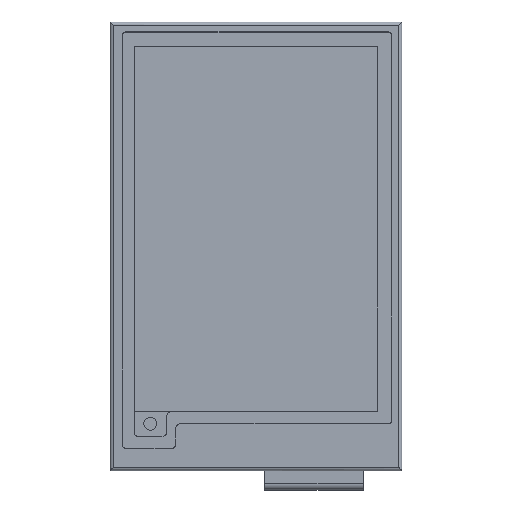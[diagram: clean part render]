
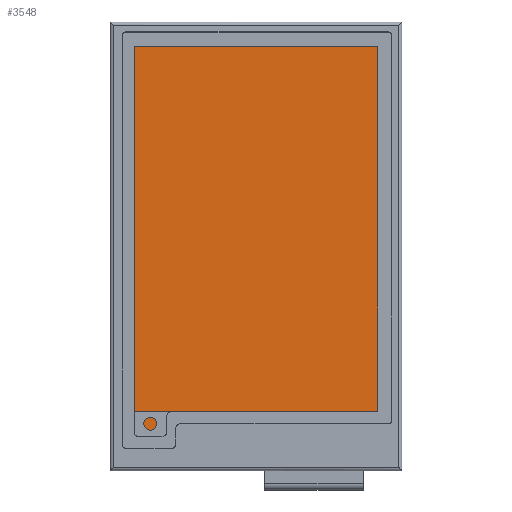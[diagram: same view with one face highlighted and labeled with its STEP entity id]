
A CAD part, top view. The second image highlights one B-rep face of the part: STEP entity #3548.
In plain terms, the highlighted planar face has unit normal (0, 0, 1).
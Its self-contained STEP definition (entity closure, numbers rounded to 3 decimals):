
#49 = ORIENTED_EDGE ( 'NONE', *, *, #7582, .F. ) ;
#129 = AXIS2_PLACEMENT_3D ( 'NONE', #6340, #2787, #4000 ) ;
#191 = EDGE_LOOP ( 'NONE', ( #3603, #751, #2134, #2982, #5205, #49, #7236, #1380, #2427 ) ) ;
#199 = VERTEX_POINT ( 'NONE', #1638 ) ;
#261 = CARTESIAN_POINT ( 'NONE',  ( -18.596, -29.304, 1. ) ) ;
#432 = VECTOR ( 'NONE', #4746, 1000. ) ;
#573 = DIRECTION ( 'NONE',  ( 1., 0., 0. ) ) ;
#689 = EDGE_CURVE ( 'NONE', #6223, #2263, #3312, .T. ) ;
#751 = ORIENTED_EDGE ( 'NONE', *, *, #7546, .F. ) ;
#899 = PLANE ( 'NONE',  #129 ) ;
#1009 = VERTEX_POINT ( 'NONE', #1662 ) ;
#1029 = AXIS2_PLACEMENT_3D ( 'NONE', #4132, #1228, #573 ) ;
#1228 = DIRECTION ( 'NONE',  ( 0., 0., 1. ) ) ;
#1380 = ORIENTED_EDGE ( 'NONE', *, *, #5007, .T. ) ;
#1410 = CARTESIAN_POINT ( 'NONE',  ( -19.096, 0., 1. ) ) ;
#1619 = DIRECTION ( 'NONE',  ( -1., 0., 0. ) ) ;
#1638 = CARTESIAN_POINT ( 'NONE',  ( -19.096, -29.304, 1. ) ) ;
#1662 = CARTESIAN_POINT ( 'NONE',  ( -18.596, -29.804, 1. ) ) ;
#1805 = FACE_OUTER_BOUND ( 'NONE', #191, .T. ) ;
#2117 = LINE ( 'NONE', #2595, #2215 ) ;
#2134 = ORIENTED_EDGE ( 'NONE', *, *, #4230, .T. ) ;
#2215 = VECTOR ( 'NONE', #5497, 1000. ) ;
#2235 = EDGE_CURVE ( 'NONE', #199, #1009, #4433, .T. ) ;
#2263 = VERTEX_POINT ( 'NONE', #5051 ) ;
#2280 = DIRECTION ( 'NONE',  ( 1., 0., 0. ) ) ;
#2289 = CIRCLE ( 'NONE', #3702, 1. ) ;
#2300 = DIRECTION ( 'NONE',  ( 0., 1., 0. ) ) ;
#2427 = ORIENTED_EDGE ( 'NONE', *, *, #4961, .F. ) ;
#2461 = VERTEX_POINT ( 'NONE', #4709 ) ;
#2589 = CIRCLE ( 'NONE', #1029, 0.5 ) ;
#2595 = CARTESIAN_POINT ( 'NONE',  ( 0., 31.394, 1. ) ) ;
#2664 = CARTESIAN_POINT ( 'NONE',  ( 0., -29.804, 1. ) ) ;
#2787 = DIRECTION ( 'NONE',  ( 0., 0., 1. ) ) ;
#2889 = CARTESIAN_POINT ( 'NONE',  ( -19.096, 31.394, 1. ) ) ;
#2969 = LINE ( 'NONE', #2664, #3805 ) ;
#2982 = ORIENTED_EDGE ( 'NONE', *, *, #689, .T. ) ;
#3312 = LINE ( 'NONE', #5914, #432 ) ;
#3416 = CARTESIAN_POINT ( 'NONE',  ( 19.096, -25.894, 1. ) ) ;
#3438 = VECTOR ( 'NONE', #1619, 1000. ) ;
#3548 = ADVANCED_FACE ( 'NONE', ( #1805 ), #899, .T. ) ;
#3601 = VECTOR ( 'NONE', #4300, 1000. ) ;
#3603 = ORIENTED_EDGE ( 'NONE', *, *, #2235, .T. ) ;
#3612 = LINE ( 'NONE', #7511, #3438 ) ;
#3645 = CARTESIAN_POINT ( 'NONE',  ( -14.596, -29.804, 1. ) ) ;
#3702 = AXIS2_PLACEMENT_3D ( 'NONE', #7554, #6407, #2280 ) ;
#3805 = VECTOR ( 'NONE', #5634, 1000. ) ;
#3814 = DIRECTION ( 'NONE',  ( 1., 0., 0. ) ) ;
#4000 = DIRECTION ( 'NONE',  ( 1., 0., 0. ) ) ;
#4132 = CARTESIAN_POINT ( 'NONE',  ( -14.596, -29.304, 1. ) ) ;
#4230 = EDGE_CURVE ( 'NONE', #4283, #6223, #2589, .T. ) ;
#4283 = VERTEX_POINT ( 'NONE', #3645 ) ;
#4300 = DIRECTION ( 'NONE',  ( 0., 1., 0. ) ) ;
#4433 = CIRCLE ( 'NONE', #7150, 0.5 ) ;
#4709 = CARTESIAN_POINT ( 'NONE',  ( -13.096, -25.894, 1. ) ) ;
#4746 = DIRECTION ( 'NONE',  ( 0., 1., 0. ) ) ;
#4835 = VERTEX_POINT ( 'NONE', #2889 ) ;
#4961 = EDGE_CURVE ( 'NONE', #199, #4835, #5175, .T. ) ;
#5007 = EDGE_CURVE ( 'NONE', #6704, #4835, #2117, .T. ) ;
#5051 = CARTESIAN_POINT ( 'NONE',  ( -14.096, -26.894, 1. ) ) ;
#5175 = LINE ( 'NONE', #1410, #3601 ) ;
#5205 = ORIENTED_EDGE ( 'NONE', *, *, #5412, .F. ) ;
#5380 = CARTESIAN_POINT ( 'NONE',  ( -14.096, -29.304, 1. ) ) ;
#5398 = VERTEX_POINT ( 'NONE', #3416 ) ;
#5412 = EDGE_CURVE ( 'NONE', #2461, #2263, #2289, .T. ) ;
#5497 = DIRECTION ( 'NONE',  ( -1., 0., 0. ) ) ;
#5601 = LINE ( 'NONE', #6990, #6461 ) ;
#5620 = CARTESIAN_POINT ( 'NONE',  ( 19.096, 31.394, 1. ) ) ;
#5634 = DIRECTION ( 'NONE',  ( -1., 0., 0. ) ) ;
#5642 = EDGE_CURVE ( 'NONE', #5398, #6704, #5601, .T. ) ;
#5914 = CARTESIAN_POINT ( 'NONE',  ( -14.096, 0., 1. ) ) ;
#6223 = VERTEX_POINT ( 'NONE', #5380 ) ;
#6340 = CARTESIAN_POINT ( 'NONE',  ( 0., 0., 1. ) ) ;
#6407 = DIRECTION ( 'NONE',  ( 0., 0., 1. ) ) ;
#6461 = VECTOR ( 'NONE', #2300, 1000. ) ;
#6704 = VERTEX_POINT ( 'NONE', #5620 ) ;
#6990 = CARTESIAN_POINT ( 'NONE',  ( 19.096, 0., 1. ) ) ;
#7150 = AXIS2_PLACEMENT_3D ( 'NONE', #261, #7290, #3814 ) ;
#7236 = ORIENTED_EDGE ( 'NONE', *, *, #5642, .T. ) ;
#7290 = DIRECTION ( 'NONE',  ( 0., 0., 1. ) ) ;
#7511 = CARTESIAN_POINT ( 'NONE',  ( 0., -25.894, 1. ) ) ;
#7546 = EDGE_CURVE ( 'NONE', #4283, #1009, #2969, .T. ) ;
#7554 = CARTESIAN_POINT ( 'NONE',  ( -13.096, -26.894, 1. ) ) ;
#7582 = EDGE_CURVE ( 'NONE', #5398, #2461, #3612, .T. ) ;
